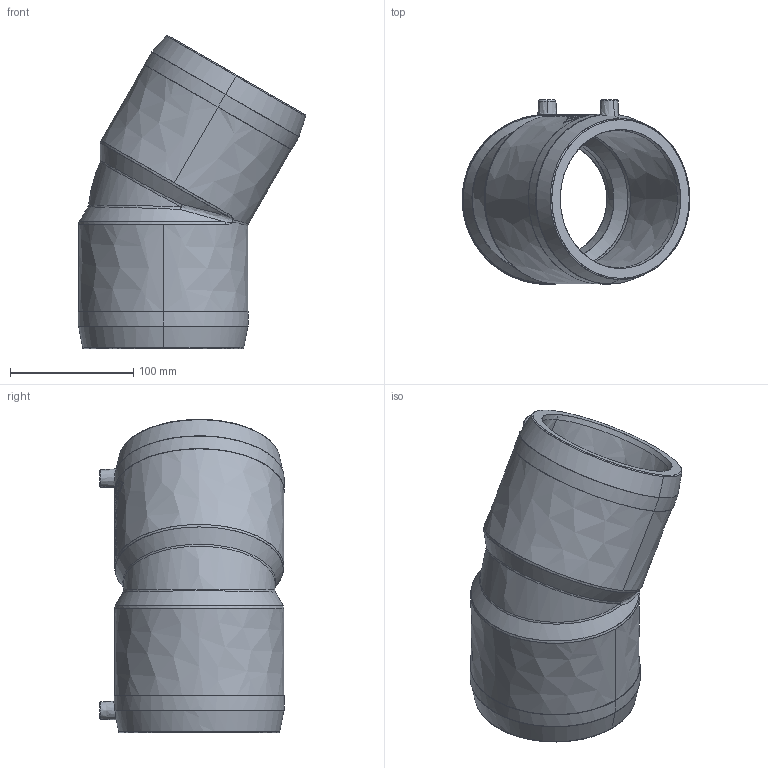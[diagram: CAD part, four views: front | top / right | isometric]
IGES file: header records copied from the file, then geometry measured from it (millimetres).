
Start section:  PTC IGES file: w30_d110_01.igs
Global section: file name: w30_d110_01.igs; native system: Pro/ENGINEER by Parametric Technology Corporation; preprocessor: 2011490; author: mtunjic; organization: Unknown; date: 20130812.095713; units: millimetre
Bounding box: 184.84 x 149.85 x 254.4 mm (x, y, z)
Surface area: 191992 mm2 (no closed solid volume)
Topology: 0 solids, 0 shells, 202 faces, 1022 edges, 1022 vertices
Faces by surface type: bspline 202
